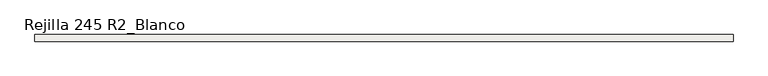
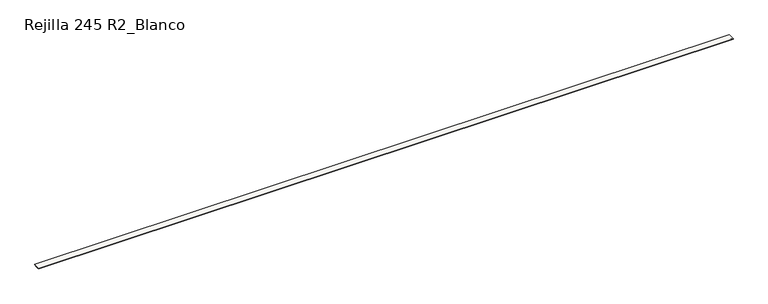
"""IFC4 building model written with IfcOpenShell, lengths in millimetres: slab geometry, ROSA GRES_245 R2_Blanco : Rejilla 245 R2_Blanco."""

from ifc_helpers import new_model, si_unit, frame, origin, place, context, project, spatial, polyline, outline, extrude, source, transform, mapped, element, save


def rejilla_245_r2_blanco_33e8b5a1(model_context):
    return source(origin(), model_context, "Body", "SweptSolid", [
        extrude(outline(polyline([(369.5908797, 206.3460936), (369.5908797, 228.3460936), (614.5908797, 228.3460936), (614.5908797, 206.3460936), (572.3142119, 206.3460936), (561.3142119, 195.3460936), (422.8675475, 195.3460936), (411.8675475, 206.3460936), (369.5908797, 206.3460936)])), frame((0.0, 0.0, 0.0), z_axis=(1.0, 0.0, 0.0), x_axis=(0.0, 1.0, 0.0)), (0.0, 0.0, 1.0), 25620.0),
    ])


if __name__ == "__main__":
    model = new_model("IFC4")
    model_context = context("Model", 3, world=origin())
    ifc_project = project(units=[si_unit("LENGTHUNIT", "METRE", prefix="MILLI")], contexts=[model_context])
    site = spatial("IfcSite", under=ifc_project)
    building = spatial("IfcBuilding", under=site)
    placement = place(None, origin())
    rejilla_245_r2_blanco_shape = rejilla_245_r2_blanco_33e8b5a1(model_context)
    element("IfcSlab", 1, ObjectType="ROSA GRES_245 R2_Blanco : Rejilla 245 R2_Blanco", at=placement, inside=building, context=model_context, shape_type="MappedRepresentation", body=[
        mapped(rejilla_245_r2_blanco_shape, transform((0.0, 0.0, 0.0), x_axis=(1.0, 0.0, 0.0), y_axis=(0.0, 1.0, 0.0), z_axis=(0.0, 0.0, 1.0))),
    ])
    save(model, "model.ifc")
